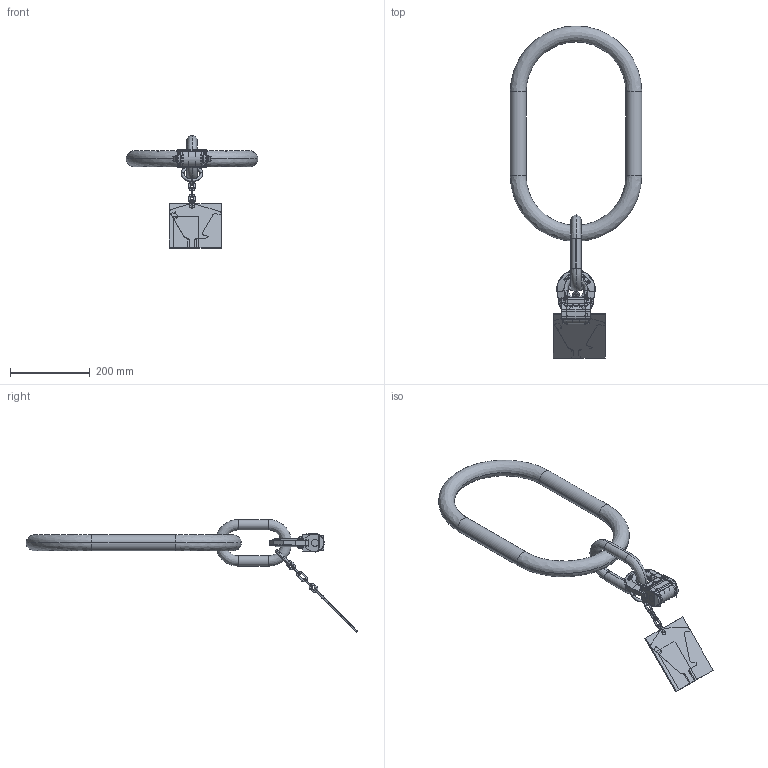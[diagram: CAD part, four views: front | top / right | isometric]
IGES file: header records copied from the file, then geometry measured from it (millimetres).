
Start section:  PTC IGES file: VSAK-1-16_250_7100698_M32082-P-3.igs
Global section: file name: VSAK-1-16_250_7100698_M32082-P-3.igs; native system: Pro/ENGINEER by Parametric Technology Corporation; preprocessor: 2010140; author: Andreas.Wendler; organization: Unknown; date: 20141024.103155; units: millimetre
Bounding box: 330 x 832.36 x 283.36 mm (x, y, z)
Volume: 2168013.6 mm3; surface area: 1166819.7 mm2
Topology: 10 solids, 10 shells, 1160 faces, 5728 edges, 7084 vertices
Faces by surface type: bspline 738, revolution 422
